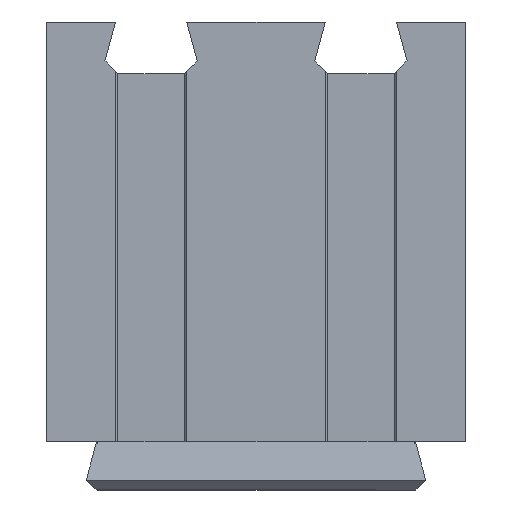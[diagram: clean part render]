
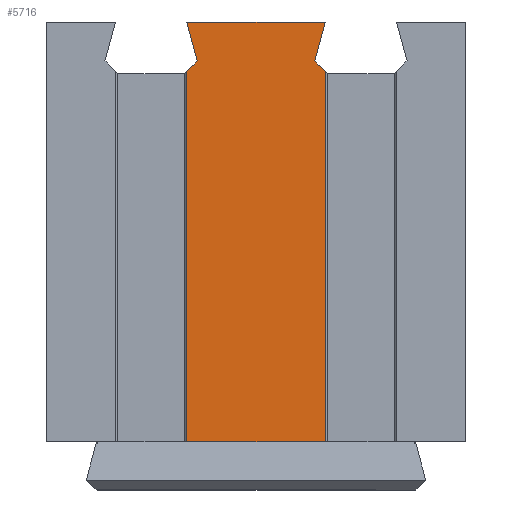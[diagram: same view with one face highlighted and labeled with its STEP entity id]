
A CAD part, left-side view. The second image highlights one B-rep face of the part: STEP entity #5716.
In plain terms, the highlighted planar face has unit normal (-1, 0, 0).
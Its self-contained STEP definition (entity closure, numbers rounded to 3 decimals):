
#128=FACE_OUTER_BOUND('',#475,.T.);
#475=EDGE_LOOP('',(#4157,#4158,#4159,#4160,#4161,#4162,#4163,#4164));
#981=LINE('',#8352,#1793);
#995=LINE('',#8381,#1807);
#1010=LINE('',#8411,#1822);
#1011=LINE('',#8412,#1823);
#1012=LINE('',#8414,#1824);
#1013=LINE('',#8416,#1825);
#1014=LINE('',#8418,#1826);
#1015=LINE('',#8419,#1827);
#1793=VECTOR('',#6774,10.);
#1807=VECTOR('',#6798,10.);
#1822=VECTOR('',#6815,10.);
#1823=VECTOR('',#6816,10.);
#1824=VECTOR('',#6817,10.);
#1825=VECTOR('',#6818,10.);
#1826=VECTOR('',#6819,10.);
#1827=VECTOR('',#6820,10.);
#2512=VERTEX_POINT('',#8344);
#2513=VERTEX_POINT('',#8348);
#2514=VERTEX_POINT('',#8350);
#2524=VERTEX_POINT('',#8380);
#2538=VERTEX_POINT('',#8410);
#2539=VERTEX_POINT('',#8413);
#2540=VERTEX_POINT('',#8415);
#2541=VERTEX_POINT('',#8417);
#3089=EDGE_CURVE('',#2513,#2514,#981,.T.);
#3103=EDGE_CURVE('',#2513,#2524,#995,.T.);
#3118=EDGE_CURVE('',#2514,#2538,#1010,.T.);
#3119=EDGE_CURVE('',#2538,#2512,#1011,.T.);
#3120=EDGE_CURVE('',#2539,#2512,#1012,.T.);
#3121=EDGE_CURVE('',#2539,#2540,#1013,.T.);
#3122=EDGE_CURVE('',#2540,#2541,#1014,.T.);
#3123=EDGE_CURVE('',#2541,#2524,#1015,.T.);
#4157=ORIENTED_EDGE('',*,*,#3089,.T.);
#4158=ORIENTED_EDGE('',*,*,#3118,.T.);
#4159=ORIENTED_EDGE('',*,*,#3119,.T.);
#4160=ORIENTED_EDGE('',*,*,#3120,.F.);
#4161=ORIENTED_EDGE('',*,*,#3121,.T.);
#4162=ORIENTED_EDGE('',*,*,#3122,.T.);
#4163=ORIENTED_EDGE('',*,*,#3123,.T.);
#4164=ORIENTED_EDGE('',*,*,#3103,.F.);
#5370=PLANE('',#6086);
#5716=ADVANCED_FACE('',(#128),#5370,.F.);
#6086=AXIS2_PLACEMENT_3D('',#8409,#6813,#6814);
#6774=DIRECTION('',(0.,0.,1.));
#6798=DIRECTION('',(0.,1.,0.));
#6813=DIRECTION('center_axis',(1.,0.,0.));
#6814=DIRECTION('ref_axis',(0.,0.,1.));
#6815=DIRECTION('',(0.,0.707,0.707));
#6816=DIRECTION('',(0.,-0.259,0.966));
#6817=DIRECTION('',(0.,-1.,0.));
#6818=DIRECTION('',(0.,-0.259,-0.966));
#6819=DIRECTION('',(0.,0.707,-0.707));
#6820=DIRECTION('',(0.,0.,-1.));
#8344=CARTESIAN_POINT('',(5.,-16.3,21.));
#8348=CARTESIAN_POINT('',(5.,-16.3,1.));
#8350=CARTESIAN_POINT('',(5.,-16.3,18.648));
#8352=CARTESIAN_POINT('',(5.,-16.3,16.5));
#8380=CARTESIAN_POINT('',(5.,-9.7,1.));
#8381=CARTESIAN_POINT('',(5.,-13.,1.));
#8409=CARTESIAN_POINT('Origin',(5.,-13.,11.));
#8410=CARTESIAN_POINT('',(5.,-15.803,19.145));
#8411=CARTESIAN_POINT('',(5.,-17.439,17.509));
#8412=CARTESIAN_POINT('',(5.,-14.691,14.995));
#8413=CARTESIAN_POINT('',(5.,-9.7,21.));
#8414=CARTESIAN_POINT('',(5.,-13.,21.));
#8415=CARTESIAN_POINT('',(5.,-10.197,19.145));
#8416=CARTESIAN_POINT('',(5.,-11.061,15.922));
#8417=CARTESIAN_POINT('',(5.,-9.7,18.648));
#8418=CARTESIAN_POINT('',(5.,-8.861,17.81));
#8419=CARTESIAN_POINT('',(5.,-9.7,16.5));
